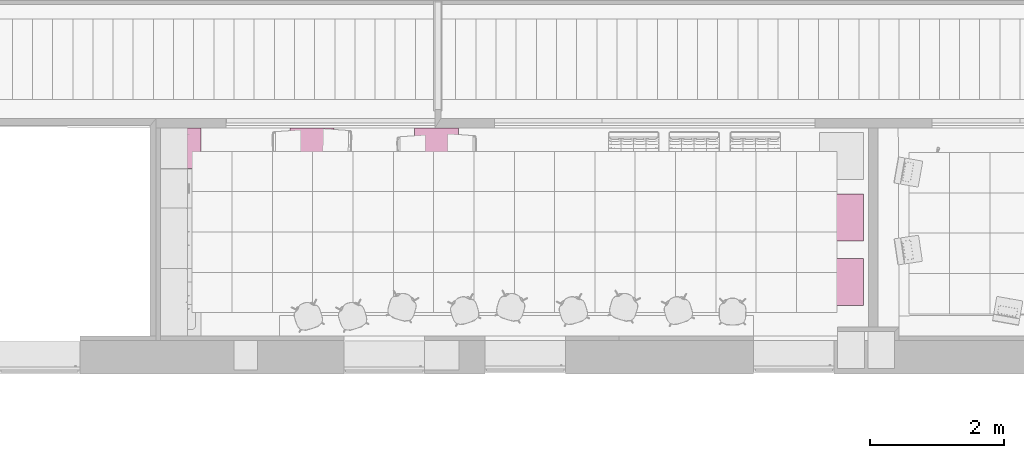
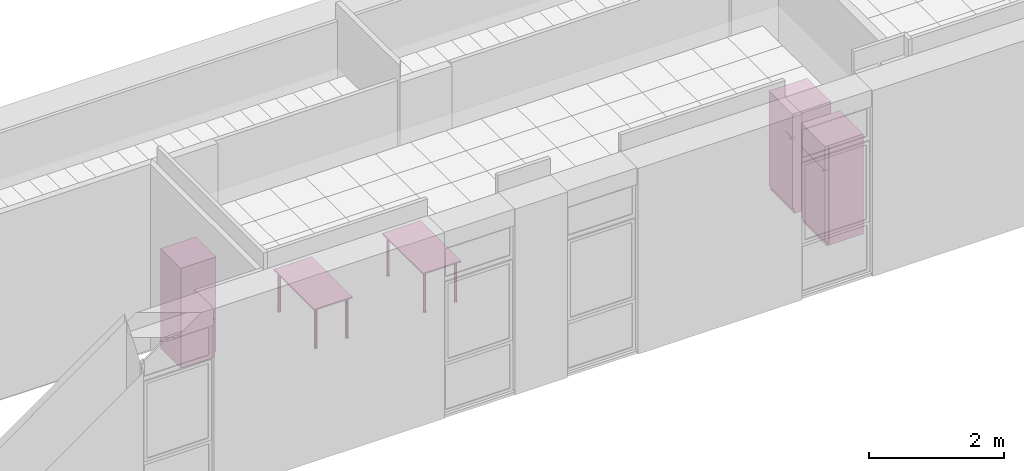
# One storey, part 57 of 60: 5 furnishings.
"""IFC2X3 building model written with IfcOpenShell, lengths in millimetres."""

from ifc_helpers import new_model, entity, si_unit, converted_unit, derived_unit, money_unit, direction, frame, origin_with_axes, place, context, subcontext, project, spatial, open_shell, faceted_brep, surface_model, source, transform, mapped, type_object, element, save


model = new_model("IFC2X3")

# Units and contexts
model_context = context("Model", 3, precision=0.01, world=origin_with_axes(), true_north=direction((0.0, 1.0)))
body_context = subcontext(model_context, "Body", "Model", "MODEL_VIEW")
ifc_project = project(units=[si_unit("LENGTHUNIT", "METRE", prefix="MILLI"), si_unit("AREAUNIT", "SQUARE_METRE"), si_unit("VOLUMEUNIT", "CUBIC_METRE"), converted_unit("PLANEANGLEUNIT", "DEGREE", entity("IfcPlaneAngleMeasure", 0.0174532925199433), si_unit("PLANEANGLEUNIT", "RADIAN"), dimensions=[0, 0, 0, 0, 0, 0, 0]), money_unit("USD"), converted_unit("TIMEUNIT", "Year", entity("IfcTimeMeasure", 31557600.0), si_unit("TIMEUNIT", "SECOND"), dimensions=[0, 0, 1, 0, 0, 0, 0]), si_unit("MASSUNIT", "GRAM", prefix="KILO"), si_unit("THERMODYNAMICTEMPERATUREUNIT", "DEGREE_CELSIUS"), si_unit("LUMINOUSINTENSITYUNIT", "LUMEN"), si_unit("ENERGYUNIT", "JOULE", prefix="MEGA"), derived_unit("THERMALCONDUCTANCEUNIT", [(si_unit("POWERUNIT", "WATT"), 1), (si_unit("LENGTHUNIT", "METRE"), -1), (si_unit("THERMODYNAMICTEMPERATUREUNIT", "KELVIN"), -1)]), derived_unit("SPECIFICHEATCAPACITYUNIT", [(si_unit("ENERGYUNIT", "JOULE"), 1), (si_unit("MASSUNIT", "GRAM", prefix="KILO"), -1), (si_unit("THERMODYNAMICTEMPERATUREUNIT", "KELVIN"), -1)]), derived_unit("MASSDENSITYUNIT", [(si_unit("MASSUNIT", "GRAM", prefix="KILO"), 1), (si_unit("VOLUMEUNIT", "CUBIC_METRE"), -1)])], contexts=[model_context])

# Site, building, storey
site_placement = place(None, origin_with_axes())
site = spatial("IfcSite", under=ifc_project, at=site_placement, Name="Sitio", CompositionType="ELEMENT")
building_placement = place(site_placement, origin_with_axes())
building = spatial("IfcBuilding", under=site, at=building_placement, Name="Construcción", CompositionType="ELEMENT")
storey_placement = place(building_placement, frame((0.0, 0.0, 3650.0), z_axis=(0.0, 0.0, 1.0), x_axis=(1.0, 0.0, 0.0)))
storey = spatial("IfcBuildingStorey", under=building, at=storey_placement, Name="PLANTA 2ª", CompositionType="ELEMENT", Elevation=3650.0)

# Furnishings
furnishing_element_type_1 = type_object("IfcFurnishingElementType", Name="Nevera 27")
shared_shape_1 = source(origin_with_axes(), body_context, "Body", "SurfaceModel", [
    faceted_brep([(0.0, 0.0, 1775.0), (600.0, 0.0, 1775.0), (600.0, 0.0, 1800.0), (0.0, 0.0, 1800.0), (0.0, 600.0, 1775.0), (600.0, 600.0, 1775.0), (600.0, 600.0, 1800.0), (0.0, 600.0, 1800.0)], [[[0, 1, 2, 3]], [[0, 4, 5, 1]], [[1, 5, 6, 2]], [[3, 2, 6, 7]], [[4, 0, 3, 7]], [[5, 4, 7, 6]]]),
    faceted_brep([(0.0, 65.0, 0.0), (600.0, 65.0, 0.0), (600.0, 65.0, 1775.0), (0.0, 65.0, 1775.0), (0.0, 600.0, 0.0), (600.0, 600.0, 0.0), (600.0, 600.0, 1775.0), (0.0, 600.0, 1775.0)], [[[0, 1, 2, 3]], [[0, 4, 5, 1]], [[1, 5, 6, 2]], [[3, 2, 6, 7]], [[4, 0, 3, 7]], [[5, 4, 7, 6]]]),
    faceted_brep([(0.0, 30.0, 0.0), (600.0, 30.0, 0.0), (600.0, 30.0, 90.0), (0.0, 30.0, 90.0), (0.0, 60.0, 0.0), (600.0, 60.0, 0.0), (600.0, 60.0, 90.0), (0.0, 60.0, 90.0)], [[[0, 1, 2, 3]], [[0, 4, 5, 1]], [[1, 5, 6, 2]], [[3, 2, 6, 7]], [[4, 0, 3, 7]], [[5, 4, 7, 6]]]),
    faceted_brep([(0.0, 60.0, 695.0), (600.0, 60.0, 695.0), (600.0, 0.0, 695.0), (0.0, 0.0, 695.0), (0.0, 60.00000000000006, 1774.5), (600.0, 60.00000000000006, 1774.5), (600.0, 0.0, 1774.5), (0.0, 0.0, 1774.5)], [[[0, 1, 2, 3]], [[0, 4, 5, 1]], [[1, 5, 6, 2]], [[3, 2, 6, 7]], [[4, 0, 3, 7]], [[5, 4, 7, 6]]]),
    faceted_brep([(0.0, 60.0, 90.0), (600.0, 60.0, 90.0), (600.0, 0.0, 90.0), (0.0, 0.0, 90.0), (0.0, 60.00000000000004, 690.0), (600.0, 60.00000000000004, 690.0), (600.0, 0.0, 690.0), (0.0, 0.0, 690.0)], [[[0, 1, 2, 3]], [[0, 4, 5, 1]], [[1, 5, 6, 2]], [[3, 2, 6, 7]], [[4, 0, 3, 7]], [[5, 4, 7, 6]]]),
    surface_model("IfcShellBasedSurfaceModel", [(600.0, -30.0, 695.0), (600.0, -30.0, 705.0), (600.0, 0.0, 705.0), (600.0, 0.0, 695.0)], [open_shell([[[0, 1, 2, 3]]])]),
    surface_model("IfcShellBasedSurfaceModel", [(600.0, -30.0, 695.0), (600.0, -30.0, 705.0), (570.0, -30.0, 705.0), (570.0, -30.0, 695.0)], [open_shell([[[0, 1, 2, 3]]])]),
    surface_model("IfcShellBasedSurfaceModel", [(600.0, -30.0, 679.9999999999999), (600.0, -30.0, 690.0), (600.0, 0.0, 690.0), (600.0, 0.0, 679.9999999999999)], [open_shell([[[0, 1, 2, 3]]])]),
    surface_model("IfcShellBasedSurfaceModel", [(600.0, -30.0, 679.9999999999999), (600.0, -30.0, 690.0), (570.0, -30.0, 690.0), (570.0, -30.0, 679.9999999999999)], [open_shell([[[0, 1, 2, 3]]])]),
])
furnishing_placement = place(storey_placement, frame((-22363.41789761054, 1363.554870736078, 0.0), z_axis=(0.0, 0.0, 1.0), x_axis=(0.0, 1.0, 0.0)))
element("IfcFurnishingElement", 1, at=furnishing_placement, inside=storey, type_object=furnishing_element_type_1, Name="60.20.53 Armari", context=body_context, shape_type="MappedRepresentation", body=[
    mapped(shared_shape_1, transform((0.0, 0.0, 0.0))),
])
shared_shape_2 = source(origin_with_axes(), body_context, "Body", "SurfaceModel", [
    faceted_brep([(0.0, 0.0, 1775.0), (698.9515664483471, 0.0, 1775.0), (698.9515664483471, 0.0, 1800.0), (0.0, 0.0, 1800.0), (0.0, 654.832835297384, 1775.0), (698.9515664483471, 654.832835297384, 1775.0), (698.9515664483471, 654.832835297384, 1800.0), (0.0, 654.832835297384, 1800.0)], [[[0, 1, 2, 3]], [[0, 4, 5, 1]], [[1, 5, 6, 2]], [[3, 2, 6, 7]], [[4, 0, 3, 7]], [[5, 4, 7, 6]]]),
    faceted_brep([(0.0, 65.0, 0.0), (698.9515664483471, 65.0, 0.0), (698.9515664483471, 65.0, 1775.0), (0.0, 65.0, 1775.0), (0.0, 654.832835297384, 0.0), (698.9515664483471, 654.832835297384, 0.0), (698.9515664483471, 654.832835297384, 1775.0), (0.0, 654.832835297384, 1775.0)], [[[0, 1, 2, 3]], [[0, 4, 5, 1]], [[1, 5, 6, 2]], [[3, 2, 6, 7]], [[4, 0, 3, 7]], [[5, 4, 7, 6]]]),
    faceted_brep([(0.0, 30.0, 0.0), (698.9515664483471, 30.0, 0.0), (698.9515664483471, 30.0, 90.0), (0.0, 30.0, 90.0), (0.0, 60.0, 0.0), (698.9515664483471, 60.0, 0.0), (698.9515664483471, 60.0, 90.0), (0.0, 60.0, 90.0)], [[[0, 1, 2, 3]], [[0, 4, 5, 1]], [[1, 5, 6, 2]], [[3, 2, 6, 7]], [[4, 0, 3, 7]], [[5, 4, 7, 6]]]),
    faceted_brep([(0.0, 60.0, 90.0), (698.9515664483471, 60.0, 90.0), (698.9515664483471, 0.0, 90.0), (0.0, 0.0, 90.0), (0.0, 60.00000000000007, 1369.5), (698.9515664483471, 60.00000000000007, 1369.5), (698.9515664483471, 0.0, 1369.5), (0.0, 0.0, 1369.5)], [[[0, 1, 2, 3]], [[0, 4, 5, 1]], [[1, 5, 6, 2]], [[3, 2, 6, 7]], [[4, 0, 3, 7]], [[5, 4, 7, 6]]]),
    faceted_brep([(0.0, 60.0, 1374.5), (698.9515664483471, 60.0, 1374.5), (698.9515664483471, 0.0, 1374.5), (0.0, 0.0, 1374.5), (0.0, 60.00000000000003, 1774.5), (698.9515664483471, 60.00000000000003, 1774.5), (698.9515664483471, 0.0, 1774.5), (0.0, 0.0, 1774.5)], [[[0, 1, 2, 3]], [[0, 4, 5, 1]], [[1, 5, 6, 2]], [[3, 2, 6, 7]], [[4, 0, 3, 7]], [[5, 4, 7, 6]]]),
    surface_model("IfcShellBasedSurfaceModel", [(698.9515664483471, -30.0, 1359.5), (698.9515664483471, -30.0, 1369.5), (698.9515664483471, 0.0, 1369.5), (698.9515664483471, 0.0, 1359.5)], [open_shell([[[0, 1, 2, 3]]])]),
    surface_model("IfcShellBasedSurfaceModel", [(698.9515664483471, -30.0, 1359.5), (698.9515664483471, -30.0, 1369.5), (668.9515664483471, -30.0, 1369.5), (668.9515664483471, -30.0, 1359.5)], [open_shell([[[0, 1, 2, 3]]])]),
    surface_model("IfcShellBasedSurfaceModel", [(698.9515664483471, -30.0, 1374.5), (698.9515664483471, -30.0, 1384.5), (698.9515664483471, 0.0, 1384.5), (698.9515664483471, 0.0, 1374.5)], [open_shell([[[0, 1, 2, 3]]])]),
    surface_model("IfcShellBasedSurfaceModel", [(698.9515664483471, -30.0, 1374.5), (698.9515664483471, -30.0, 1384.5), (668.9515664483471, -30.0, 1384.5), (668.9515664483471, -30.0, 1374.5)], [open_shell([[[0, 1, 2, 3]]])]),
])
for number, where, z_axis, x_axis in (
    (2, (-13156.2278979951, 22.87385524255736, 0.0), (0.0, 0.0, 1.0), (0.0, -1.0, 0.0)),
    (3, (-13156.2278979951, 985.8135119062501, 0.0), (0.0, 0.0, 1.0), (0.0, -1.0, 0.0)),
):
    element("IfcFurnishingElement", number, at=place(storey_placement, frame(where, z_axis=z_axis, x_axis=x_axis)), inside=storey, type_object=furnishing_element_type_1, Name="60.20.53 Armari", context=body_context, shape_type="MappedRepresentation", body=[
        mapped(shared_shape_2, transform((0.0, 0.0, 0.0))),
    ])
furnishing_element_type_2 = type_object("IfcFurnishingElementType", Name="Mesa Oficina Rect 27")
shared_shape_3 = source(origin_with_axes(), body_context, "Body", "Brep", [
    faceted_brep([(0.0, 0.0, 725.0), (0.0, 0.0, 750.0), (-1200.0, 0.0, 750.0), (-1200.0, 0.0, 725.0), (0.0, 650.0, 725.0), (0.0, 650.0, 750.0), (-1200.0, 650.0, 750.0), (-1200.0, 650.0, 725.0)], [[[0, 1, 2, 3]], [[4, 5, 1, 0]], [[1, 5, 6, 2]], [[3, 2, 6, 7]], [[0, 3, 7, 4]], [[7, 6, 5, 4]]]),
    faceted_brep([(-77.67766952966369, 77.67766952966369, 10.0), (-60.0, 84.99999999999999, 10.0), (-42.3223304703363, 77.67766952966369, 10.0), (-34.99999999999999, 60.0, 10.0), (-42.3223304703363, 42.3223304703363, 10.0), (-60.0, 34.99999999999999, 10.0), (-77.67766952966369, 42.3223304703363, 10.0), (-85.0, 60.0, 10.0), (-77.67766952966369, 77.67766952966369, 725.0), (-60.0, 84.99999999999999, 725.0), (-42.3223304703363, 77.67766952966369, 725.0), (-34.99999999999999, 60.0, 725.0), (-42.3223304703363, 42.3223304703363, 725.0), (-60.0, 34.99999999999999, 725.0), (-77.67766952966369, 42.3223304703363, 725.0), (-85.0, 60.0, 725.0)], [[[0, 1, 2, 3, 4, 5, 6, 7]], [[0, 8, 9, 1]], [[1, 9, 10, 2]], [[2, 10, 11, 3]], [[3, 11, 12, 4]], [[4, 12, 13, 5]], [[5, 13, 14, 6]], [[6, 14, 15, 7]], [[7, 15, 8, 0]], [[8, 15, 14, 13, 12, 11, 10, 9]]]),
    faceted_brep([(-81.21320343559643, 81.21320343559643, 0.0), (-60.0, 90.0, 0.0), (-38.78679656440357, 81.21320343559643, 0.0), (-29.99999999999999, 60.0, 0.0), (-38.78679656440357, 38.78679656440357, 0.0), (-60.0, 29.99999999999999, 0.0), (-81.21320343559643, 38.78679656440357, 0.0), (-90.00000000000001, 60.0, 0.0), (-81.21320343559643, 81.21320343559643, 10.0), (-60.0, 90.0, 10.0), (-38.78679656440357, 81.21320343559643, 10.0), (-29.99999999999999, 60.0, 10.0), (-38.78679656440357, 38.78679656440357, 10.0), (-60.0, 29.99999999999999, 10.0), (-81.21320343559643, 38.78679656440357, 10.0), (-90.00000000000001, 60.0, 10.0)], [[[0, 1, 2, 3, 4, 5, 6, 7]], [[0, 8, 9, 1]], [[1, 9, 10, 2]], [[2, 10, 11, 3]], [[3, 11, 12, 4]], [[4, 12, 13, 5]], [[5, 13, 14, 6]], [[6, 14, 15, 7]], [[7, 15, 8, 0]], [[8, 15, 14, 13, 12, 11, 10, 9]]]),
    faceted_brep([(-77.67766952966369, 607.6776695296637, 10.0), (-60.0, 615.0000000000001, 10.0), (-42.3223304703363, 607.6776695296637, 10.0), (-34.99999999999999, 590.0000000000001, 10.0), (-42.3223304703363, 572.3223304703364, 10.0), (-60.0, 565.0000000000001, 10.0), (-77.67766952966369, 572.3223304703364, 10.0), (-85.0, 590.0000000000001, 10.0), (-77.67766952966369, 607.6776695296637, 725.0), (-60.0, 615.0000000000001, 725.0), (-42.3223304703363, 607.6776695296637, 725.0), (-34.99999999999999, 590.0000000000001, 725.0), (-42.3223304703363, 572.3223304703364, 725.0), (-60.0, 565.0000000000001, 725.0), (-77.67766952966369, 572.3223304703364, 725.0), (-85.0, 590.0000000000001, 725.0)], [[[0, 1, 2, 3, 4, 5, 6, 7]], [[0, 8, 9, 1]], [[1, 9, 10, 2]], [[2, 10, 11, 3]], [[3, 11, 12, 4]], [[4, 12, 13, 5]], [[5, 13, 14, 6]], [[6, 14, 15, 7]], [[7, 15, 8, 0]], [[8, 15, 14, 13, 12, 11, 10, 9]]]),
    faceted_brep([(-81.21320343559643, 611.2132034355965, 0.0), (-60.0, 620.0000000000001, 0.0), (-38.78679656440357, 611.2132034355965, 0.0), (-29.99999999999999, 590.0000000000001, 0.0), (-38.78679656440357, 568.7867965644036, 0.0), (-60.0, 560.0, 0.0), (-81.21320343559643, 568.7867965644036, 0.0), (-90.00000000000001, 590.0000000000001, 0.0), (-81.21320343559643, 611.2132034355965, 10.0), (-60.0, 620.0000000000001, 10.0), (-38.78679656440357, 611.2132034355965, 10.0), (-29.99999999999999, 590.0000000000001, 10.0), (-38.78679656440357, 568.7867965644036, 10.0), (-60.0, 560.0, 10.0), (-81.21320343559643, 568.7867965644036, 10.0), (-90.00000000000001, 590.0000000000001, 10.0)], [[[0, 1, 2, 3, 4, 5, 6, 7]], [[0, 8, 9, 1]], [[1, 9, 10, 2]], [[2, 10, 11, 3]], [[3, 11, 12, 4]], [[4, 12, 13, 5]], [[5, 13, 14, 6]], [[6, 14, 15, 7]], [[7, 15, 8, 0]], [[8, 15, 14, 13, 12, 11, 10, 9]]]),
    faceted_brep([(-1157.677669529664, 77.67766952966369, 10.0), (-1140.0, 84.99999999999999, 10.0), (-1122.322330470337, 77.67766952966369, 10.0), (-1115.0, 60.0, 10.0), (-1122.322330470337, 42.3223304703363, 10.0), (-1140.0, 34.99999999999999, 10.0), (-1157.677669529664, 42.3223304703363, 10.0), (-1165.0, 60.0, 10.0), (-1157.677669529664, 77.67766952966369, 725.0), (-1140.0, 84.99999999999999, 725.0), (-1122.322330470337, 77.67766952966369, 725.0), (-1115.0, 60.0, 725.0), (-1122.322330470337, 42.3223304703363, 725.0), (-1140.0, 34.99999999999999, 725.0), (-1157.677669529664, 42.3223304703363, 725.0), (-1165.0, 60.0, 725.0)], [[[0, 1, 2, 3, 4, 5, 6, 7]], [[0, 8, 9, 1]], [[1, 9, 10, 2]], [[2, 10, 11, 3]], [[3, 11, 12, 4]], [[4, 12, 13, 5]], [[5, 13, 14, 6]], [[6, 14, 15, 7]], [[7, 15, 8, 0]], [[8, 15, 14, 13, 12, 11, 10, 9]]]),
    faceted_brep([(-1161.213203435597, 81.21320343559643, 0.0), (-1140.0, 90.0, 0.0), (-1118.786796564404, 81.21320343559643, 0.0), (-1110.0, 60.0, 0.0), (-1118.786796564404, 38.78679656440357, 0.0), (-1140.0, 29.99999999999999, 0.0), (-1161.213203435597, 38.78679656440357, 0.0), (-1170.0, 60.0, 0.0), (-1161.213203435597, 81.21320343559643, 10.0), (-1140.0, 90.0, 10.0), (-1118.786796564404, 81.21320343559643, 10.0), (-1110.0, 60.0, 10.0), (-1118.786796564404, 38.78679656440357, 10.0), (-1140.0, 29.99999999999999, 10.0), (-1161.213203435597, 38.78679656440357, 10.0), (-1170.0, 60.0, 10.0)], [[[0, 1, 2, 3, 4, 5, 6, 7]], [[0, 8, 9, 1]], [[1, 9, 10, 2]], [[2, 10, 11, 3]], [[3, 11, 12, 4]], [[4, 12, 13, 5]], [[5, 13, 14, 6]], [[6, 14, 15, 7]], [[7, 15, 8, 0]], [[8, 15, 14, 13, 12, 11, 10, 9]]]),
    faceted_brep([(-1157.677669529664, 607.6776695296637, 10.0), (-1140.0, 615.0000000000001, 10.0), (-1122.322330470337, 607.6776695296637, 10.0), (-1115.0, 590.0000000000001, 10.0), (-1122.322330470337, 572.3223304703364, 10.0), (-1140.0, 565.0000000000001, 10.0), (-1157.677669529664, 572.3223304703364, 10.0), (-1165.0, 590.0000000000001, 10.0), (-1157.677669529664, 607.6776695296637, 725.0), (-1140.0, 615.0000000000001, 725.0), (-1122.322330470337, 607.6776695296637, 725.0), (-1115.0, 590.0000000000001, 725.0), (-1122.322330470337, 572.3223304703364, 725.0), (-1140.0, 565.0000000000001, 725.0), (-1157.677669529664, 572.3223304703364, 725.0), (-1165.0, 590.0000000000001, 725.0)], [[[0, 1, 2, 3, 4, 5, 6, 7]], [[0, 8, 9, 1]], [[1, 9, 10, 2]], [[2, 10, 11, 3]], [[3, 11, 12, 4]], [[4, 12, 13, 5]], [[5, 13, 14, 6]], [[6, 14, 15, 7]], [[7, 15, 8, 0]], [[8, 15, 14, 13, 12, 11, 10, 9]]]),
    faceted_brep([(-1161.213203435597, 611.2132034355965, 0.0), (-1140.0, 620.0000000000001, 0.0), (-1118.786796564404, 611.2132034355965, 0.0), (-1110.0, 590.0000000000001, 0.0), (-1118.786796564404, 568.7867965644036, 0.0), (-1140.0, 560.0, 0.0), (-1161.213203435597, 568.7867965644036, 0.0), (-1170.0, 590.0000000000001, 0.0), (-1161.213203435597, 611.2132034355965, 10.0), (-1140.0, 620.0000000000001, 10.0), (-1118.786796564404, 611.2132034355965, 10.0), (-1110.0, 590.0000000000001, 10.0), (-1118.786796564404, 568.7867965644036, 10.0), (-1140.0, 560.0, 10.0), (-1161.213203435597, 568.7867965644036, 10.0), (-1170.0, 590.0000000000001, 10.0)], [[[0, 1, 2, 3, 4, 5, 6, 7]], [[0, 8, 9, 1]], [[1, 9, 10, 2]], [[2, 10, 11, 3]], [[3, 11, 12, 4]], [[4, 12, 13, 5]], [[5, 13, 14, 6]], [[6, 14, 15, 7]], [[7, 15, 8, 0]], [[8, 15, 14, 13, 12, 11, 10, 9]]]),
])
for number, where, z_axis, x_axis in (
    (4, (-19180.15557276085, 763.5548275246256, 0.0), (0.0, 0.0, 1.0), (0.0, -1.0, 0.0)),
    (5, (-21035.26124519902, 763.5548275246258, 0.0), (0.0, 0.0, 1.0), (0.0, -1.0, 0.0)),
):
    element("IfcFurnishingElement", number, at=place(storey_placement, frame(where, z_axis=z_axis, x_axis=x_axis)), inside=storey, type_object=furnishing_element_type_2, Name="60.20.51 Armari", context=body_context, shape_type="MappedRepresentation", body=[
        mapped(shared_shape_3, transform((0.0, 0.0, 0.0))),
    ])

save(model, "model.ifc")
